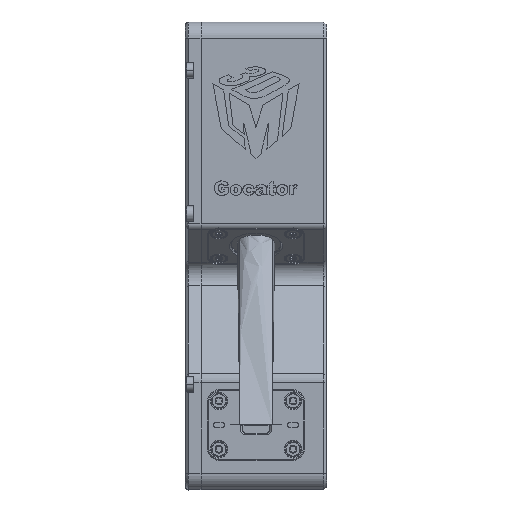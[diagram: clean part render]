
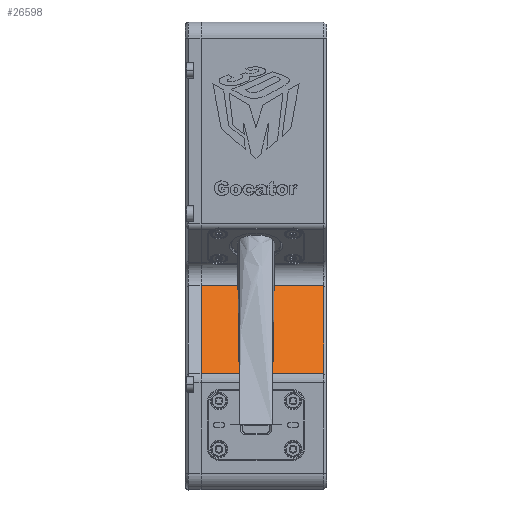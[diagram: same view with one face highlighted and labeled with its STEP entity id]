
A CAD part, top view. The second image highlights one B-rep face of the part: STEP entity #26598.
In plain terms, the highlighted planar face has unit normal (0, 0.574, 0.819).
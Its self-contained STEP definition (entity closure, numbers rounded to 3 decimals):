
#1128 = VECTOR ( 'NONE', #92673, 1000. ) ;
#3638 = EDGE_LOOP ( 'NONE', ( #20620, #23555, #27278, #44280 ) ) ;
#5498 = FACE_OUTER_BOUND ( 'NONE', #3638, .T. ) ;
#15141 = CARTESIAN_POINT ( 'NONE',  ( -16.95, 16.033, -0.904 ) ) ;
#15667 = LINE ( 'NONE', #77869, #1128 ) ;
#20094 = VERTEX_POINT ( 'NONE', #26949 ) ;
#20620 = ORIENTED_EDGE ( 'NONE', *, *, #79329, .F. ) ;
#22074 = CARTESIAN_POINT ( 'NONE',  ( -17., 43.355, -20.035 ) ) ;
#23555 = ORIENTED_EDGE ( 'NONE', *, *, #82092, .T. ) ;
#26598 = ADVANCED_FACE ( 'NONE', ( #5498 ), #66338, .F. ) ;
#26949 = CARTESIAN_POINT ( 'NONE',  ( 21., 43.355, -20.035 ) ) ;
#27278 = ORIENTED_EDGE ( 'NONE', *, *, #32907, .F. ) ;
#30586 = VERTEX_POINT ( 'NONE', #71867 ) ;
#30806 = LINE ( 'NONE', #22074, #82459 ) ;
#32907 = EDGE_CURVE ( 'NONE', #43979, #34979, #15667, .T. ) ;
#33185 = EDGE_CURVE ( 'NONE', #30586, #43979, #39205, .T. ) ;
#34979 = VERTEX_POINT ( 'NONE', #84976 ) ;
#39205 = LINE ( 'NONE', #59378, #48249 ) ;
#39857 = AXIS2_PLACEMENT_3D ( 'NONE', #79564, #86774, #43784 ) ;
#41122 = DIRECTION ( 'NONE',  ( 0., -0.819, 0.574 ) ) ;
#43784 = DIRECTION ( 'NONE',  ( 0., 0.819, -0.574 ) ) ;
#43979 = VERTEX_POINT ( 'NONE', #15141 ) ;
#44280 = ORIENTED_EDGE ( 'NONE', *, *, #33185, .F. ) ;
#48249 = VECTOR ( 'NONE', #72244, 1000. ) ;
#51415 = VECTOR ( 'NONE', #41122, 1000. ) ;
#59378 = CARTESIAN_POINT ( 'NONE',  ( -17., 16.033, -0.904 ) ) ;
#62456 = CARTESIAN_POINT ( 'NONE',  ( 21., 43.355, -20.035 ) ) ;
#63692 = LINE ( 'NONE', #62456, #51415 ) ;
#66332 = DIRECTION ( 'NONE',  ( -1., 0., 0. ) ) ;
#66338 = PLANE ( 'NONE',  #39857 ) ;
#71867 = CARTESIAN_POINT ( 'NONE',  ( 21., 16.033, -0.904 ) ) ;
#72244 = DIRECTION ( 'NONE',  ( -1., 0., 0. ) ) ;
#77869 = CARTESIAN_POINT ( 'NONE',  ( -16.95, 43.355, -20.035 ) ) ;
#79329 = EDGE_CURVE ( 'NONE', #20094, #30586, #63692, .T. ) ;
#79564 = CARTESIAN_POINT ( 'NONE',  ( -17., 43.355, -20.035 ) ) ;
#82092 = EDGE_CURVE ( 'NONE', #20094, #34979, #30806, .T. ) ;
#82459 = VECTOR ( 'NONE', #66332, 1000. ) ;
#84976 = CARTESIAN_POINT ( 'NONE',  ( -16.95, 43.355, -20.035 ) ) ;
#86774 = DIRECTION ( 'NONE',  ( 0., -0.574, -0.819 ) ) ;
#92673 = DIRECTION ( 'NONE',  ( 0., 0.819, -0.574 ) ) ;
